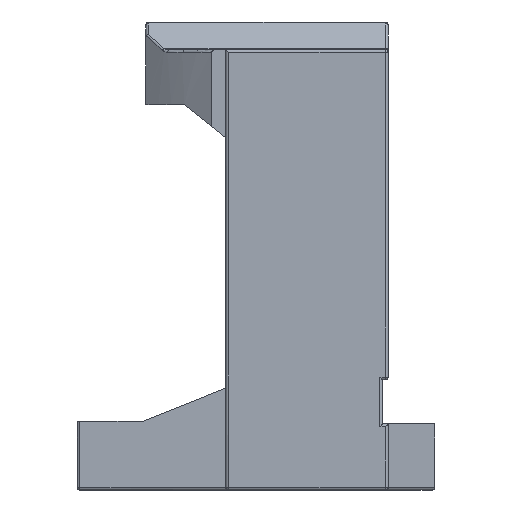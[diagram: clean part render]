
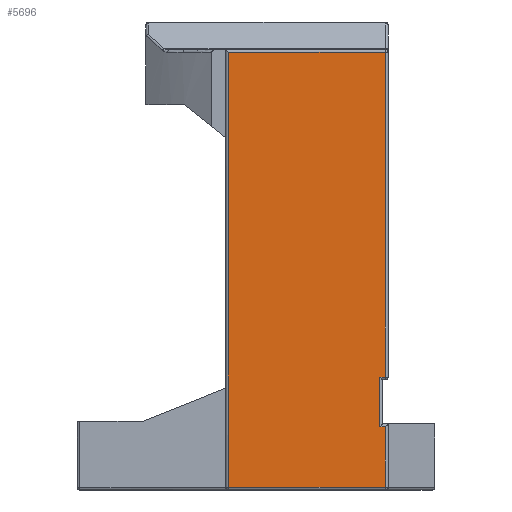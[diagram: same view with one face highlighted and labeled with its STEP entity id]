
A CAD part, left-side view. The second image highlights one B-rep face of the part: STEP entity #5696.
In plain terms, the highlighted planar face has unit normal (-1, 0, 0).
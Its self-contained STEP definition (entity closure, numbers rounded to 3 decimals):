
#6 = VECTOR ( 'NONE', #5065, 1000. ) ;
#67 = DIRECTION ( 'NONE',  ( 0., -1., 0. ) ) ;
#123 = ORIENTED_EDGE ( 'NONE', *, *, #3574, .T. ) ;
#146 = EDGE_CURVE ( 'NONE', #6648, #1932, #2612, .T. ) ;
#287 = ORIENTED_EDGE ( 'NONE', *, *, #2164, .T. ) ;
#386 = CARTESIAN_POINT ( 'NONE',  ( -75., -45., 25. ) ) ;
#600 = CARTESIAN_POINT ( 'NONE',  ( -75., -45., 41. ) ) ;
#814 = CARTESIAN_POINT ( 'NONE',  ( -75., -45., 23. ) ) ;
#885 = VECTOR ( 'NONE', #5083, 1000. ) ;
#907 = EDGE_CURVE ( 'NONE', #4724, #4454, #1642, .T. ) ;
#918 = DIRECTION ( 'NONE',  ( 0., 0., 1. ) ) ;
#1101 = LINE ( 'NONE', #6450, #6098 ) ;
#1166 = DIRECTION ( 'NONE',  ( 1., 0., 0. ) ) ;
#1622 = CARTESIAN_POINT ( 'NONE',  ( -75., 10., 25. ) ) ;
#1642 = LINE ( 'NONE', #1622, #5736 ) ;
#1656 = CARTESIAN_POINT ( 'NONE',  ( -75., 72.5, 25. ) ) ;
#1829 = CARTESIAN_POINT ( 'NONE',  ( -75., -47., 23. ) ) ;
#1932 = VERTEX_POINT ( 'NONE', #1829 ) ;
#2001 = CARTESIAN_POINT ( 'NONE',  ( -75., -47., 24. ) ) ;
#2099 = VECTOR ( 'NONE', #4657, 1000. ) ;
#2157 = DIRECTION ( 'NONE',  ( 0., 0., -1. ) ) ;
#2162 = EDGE_CURVE ( 'NONE', #5438, #3194, #3848, .T. ) ;
#2164 = EDGE_CURVE ( 'NONE', #1932, #5438, #5242, .T. ) ;
#2256 = LINE ( 'NONE', #5156, #2099 ) ;
#2494 = VECTOR ( 'NONE', #918, 1000. ) ;
#2529 = CARTESIAN_POINT ( 'NONE',  ( -75., -47., 1. ) ) ;
#2607 = ORIENTED_EDGE ( 'NONE', *, *, #3065, .T. ) ;
#2612 = LINE ( 'NONE', #2001, #885 ) ;
#2805 = VECTOR ( 'NONE', #67, 1000. ) ;
#2956 = CARTESIAN_POINT ( 'NONE',  ( -75., -47., 159. ) ) ;
#3065 = EDGE_CURVE ( 'NONE', #4833, #5511, #2256, .T. ) ;
#3194 = VERTEX_POINT ( 'NONE', #600 ) ;
#3201 = AXIS2_PLACEMENT_3D ( 'NONE', #1656, #1166, #4763 ) ;
#3216 = PLANE ( 'NONE',  #3201 ) ;
#3380 = CARTESIAN_POINT ( 'NONE',  ( -75., -47., 41. ) ) ;
#3574 = EDGE_CURVE ( 'NONE', #4454, #6648, #5138, .T. ) ;
#3576 = DIRECTION ( 'NONE',  ( 0., -1., 0. ) ) ;
#3724 = FACE_OUTER_BOUND ( 'NONE', #6502, .T. ) ;
#3743 = EDGE_CURVE ( 'NONE', #3194, #4833, #4159, .T. ) ;
#3761 = VECTOR ( 'NONE', #3576, 1000. ) ;
#3848 = LINE ( 'NONE', #386, #2494 ) ;
#3942 = EDGE_CURVE ( 'NONE', #5511, #4724, #1101, .T. ) ;
#3957 = ORIENTED_EDGE ( 'NONE', *, *, #3942, .T. ) ;
#4059 = CARTESIAN_POINT ( 'NONE',  ( -75., 10., 1. ) ) ;
#4122 = ORIENTED_EDGE ( 'NONE', *, *, #907, .T. ) ;
#4159 = LINE ( 'NONE', #6299, #2805 ) ;
#4274 = ORIENTED_EDGE ( 'NONE', *, *, #146, .T. ) ;
#4315 = CARTESIAN_POINT ( 'NONE',  ( -75., 10., 159. ) ) ;
#4436 = ORIENTED_EDGE ( 'NONE', *, *, #2162, .T. ) ;
#4454 = VERTEX_POINT ( 'NONE', #4059 ) ;
#4540 = CARTESIAN_POINT ( 'NONE',  ( -75., 72.5, 23. ) ) ;
#4613 = ORIENTED_EDGE ( 'NONE', *, *, #3743, .T. ) ;
#4657 = DIRECTION ( 'NONE',  ( 0., 0., 1. ) ) ;
#4724 = VERTEX_POINT ( 'NONE', #4315 ) ;
#4763 = DIRECTION ( 'NONE',  ( 0., 1., 0. ) ) ;
#4833 = VERTEX_POINT ( 'NONE', #3380 ) ;
#5065 = DIRECTION ( 'NONE',  ( 0., 1., 0. ) ) ;
#5083 = DIRECTION ( 'NONE',  ( 0., 0., 1. ) ) ;
#5138 = LINE ( 'NONE', #5627, #3761 ) ;
#5156 = CARTESIAN_POINT ( 'NONE',  ( -75., -47., 25. ) ) ;
#5242 = LINE ( 'NONE', #4540, #6 ) ;
#5438 = VERTEX_POINT ( 'NONE', #814 ) ;
#5440 = DIRECTION ( 'NONE',  ( 0., 1., 0. ) ) ;
#5511 = VERTEX_POINT ( 'NONE', #2956 ) ;
#5627 = CARTESIAN_POINT ( 'NONE',  ( -75., 72.5, 1. ) ) ;
#5696 = ADVANCED_FACE ( 'NONE', ( #3724 ), #3216, .F. ) ;
#5736 = VECTOR ( 'NONE', #2157, 1000. ) ;
#6098 = VECTOR ( 'NONE', #5440, 1000. ) ;
#6299 = CARTESIAN_POINT ( 'NONE',  ( -75., 72.5, 41. ) ) ;
#6450 = CARTESIAN_POINT ( 'NONE',  ( -75., 72.5, 159. ) ) ;
#6502 = EDGE_LOOP ( 'NONE', ( #2607, #3957, #4122, #123, #4274, #287, #4436, #4613 ) ) ;
#6648 = VERTEX_POINT ( 'NONE', #2529 ) ;
